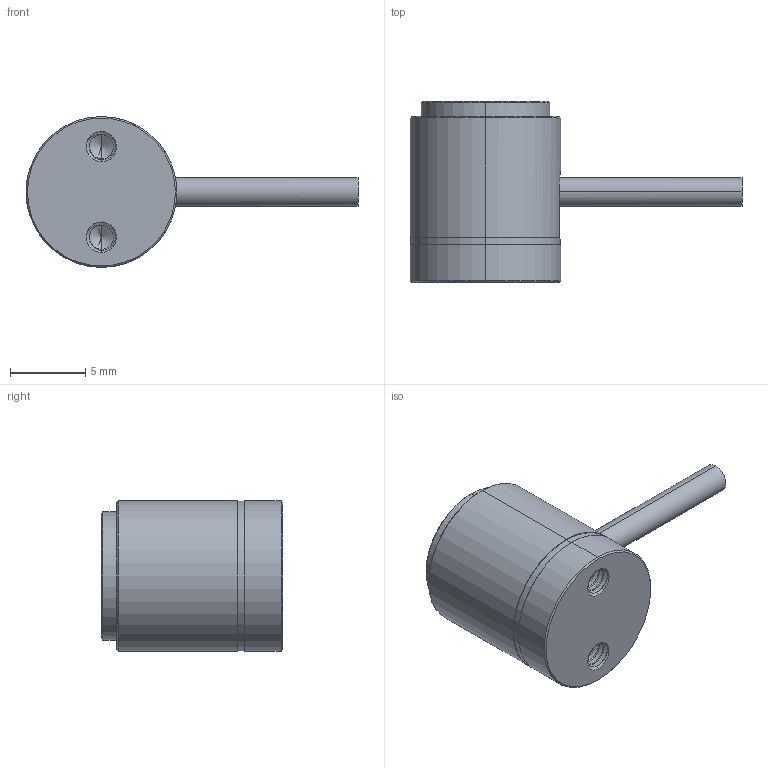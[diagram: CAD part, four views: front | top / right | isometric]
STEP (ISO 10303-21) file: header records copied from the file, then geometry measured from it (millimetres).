
FILE_DESCRIPTION (( 'STEP AP203' ), '1' );
FILE_NAME ('LCF02.STEP', '2024-07-16T04:19:31', ( '' ), ( '' ), 'SwSTEP 2.0', 'SolidWorks 2019', '' );
FILE_SCHEMA (( 'CONFIG_CONTROL_DESIGN' ));
Length unit declared in the file: millimetre
Products named in the file (1): LCF02
Bounding box: 22 x 12 x 10 mm (x, y, z)
Volume: 863.8 mm3; surface area: 1135 mm2
Topology: 1 solids, 1 shells, 91 faces, 248 edges, 155 vertices
Faces by surface type: cylinder 48, cone 20, plane 13, bspline 10
Entity records: 5356 total; most frequent: CARTESIAN_POINT 3279, ORIENTED_EDGE 484, DIRECTION 355, EDGE_CURVE 242, VERTEX_POINT 155, AXIS2_PLACEMENT_3D 134, EDGE_LOOP 99, FACE_OUTER_BOUND 91
